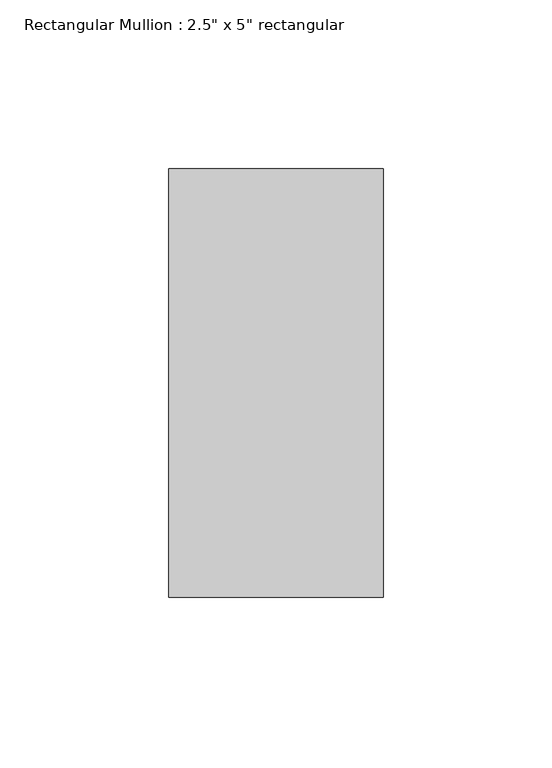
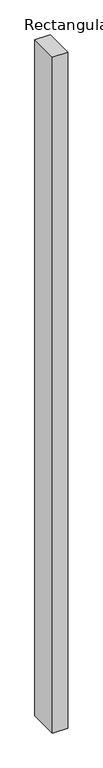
"""IFC4 building model written with IfcOpenShell, lengths in millimetres: member geometry."""

from ifc_helpers import new_model, si_unit, frame, origin, place, context, project, spatial, polyline, outline, extrude, source, transform, mapped, element, save


def member_948bfd1f(model_context):
    return source(origin(), model_context, "Body", "SweptSolid", [
        extrude(outline(polyline([(31.75, 63.5), (31.75, -63.5), (-31.75, -63.5), (-31.75, 63.5), (31.75, 63.5)])), frame((0.0, 0.0, -2984.4999999), z_axis=(0.0, 0.0, 1.0), x_axis=(1.0, 0.0, 0.0)), (0.0, 0.0, 1.0), 2984.4999999),
    ])


if __name__ == "__main__":
    model = new_model("IFC4")
    model_context = context("Model", 3, world=origin())
    ifc_project = project(units=[si_unit("LENGTHUNIT", "METRE", prefix="MILLI")], contexts=[model_context])
    site = spatial("IfcSite", under=ifc_project)
    building = spatial("IfcBuilding", under=site)
    placement = place(None, origin())
    member_shape = member_948bfd1f(model_context)
    element("IfcMember", 1, ObjectType="Rectangular Mullion : 2.5\" x 5\" rectangular", at=placement, inside=building, context=model_context, shape_type="MappedRepresentation", body=[
        mapped(member_shape, transform((0.0, 0.0, 0.0), x_axis=(1.0, 0.0, 0.0), y_axis=(0.0, 1.0, 0.0), z_axis=(0.0, 0.0, 1.0))),
    ])
    save(model, "model.ifc")
